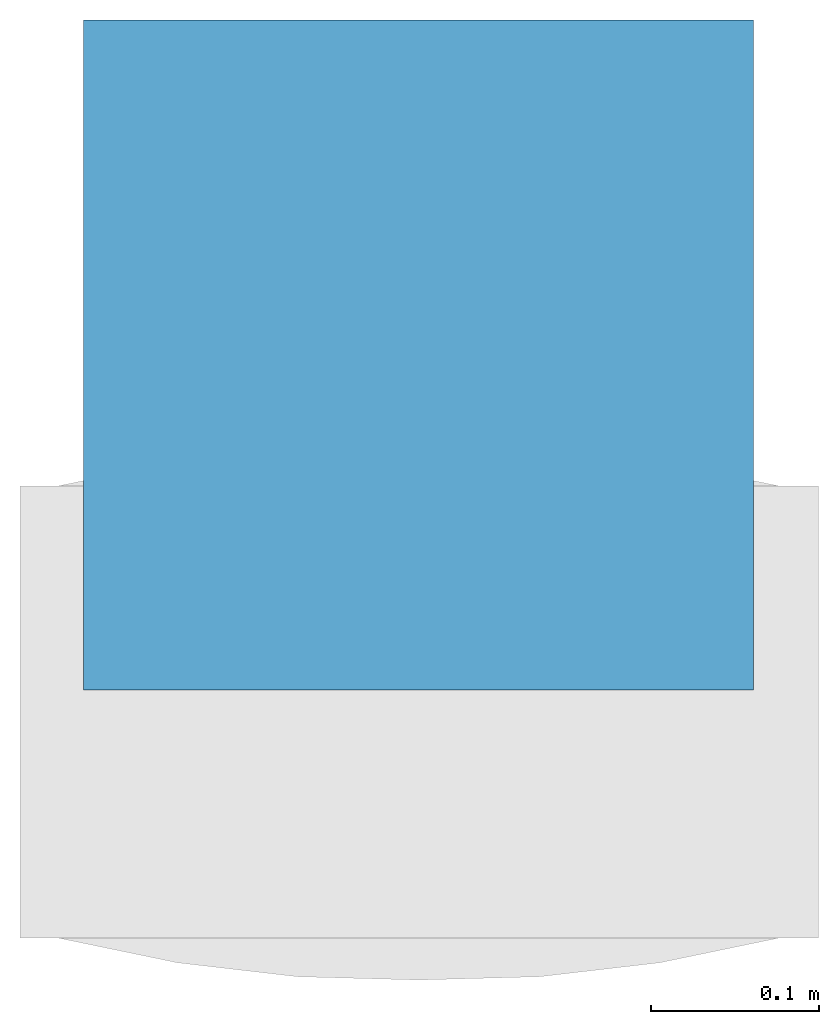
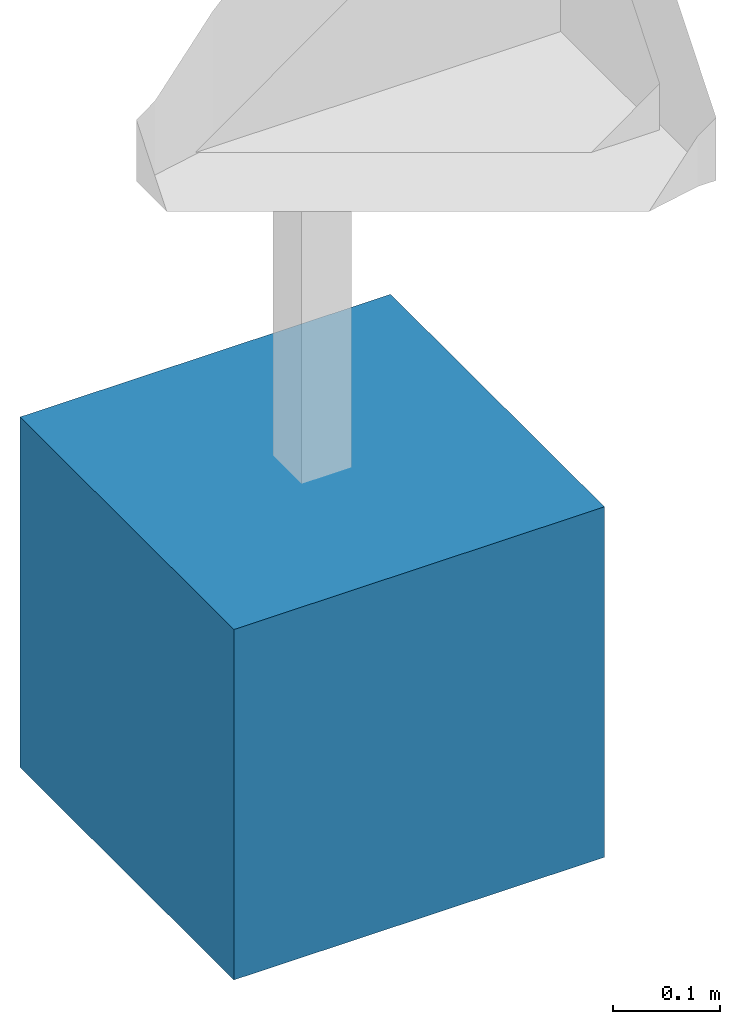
# One storey, part 1 of 2: 1 slab.
"""IFC4 building model written with IfcOpenShell, lengths in metres."""

from ifc_helpers import new_model, entity, si_unit, converted_unit, direction, frame, origin, origin_2d_with_axis, place, context, subcontext, project, spatial, rectangle, extrude, material, type_object, element, save


model = new_model("IFC4")

# Units and contexts
model_context = context("Model", 3, precision=1e-05, world=origin(), true_north=direction((6.123031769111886e-17, 1.0)))
body_context = subcontext(model_context, "Body", "Model", "MODEL_VIEW")
ifc_project = project(units=[si_unit("LENGTHUNIT", "METRE"), converted_unit("PLANEANGLEUNIT", "DEGREE", entity("IfcPlaneAngleMeasure", 0.017453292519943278), si_unit("PLANEANGLEUNIT", "RADIAN"), dimensions=[0, 0, 0, 0, 0, 0, 0]), si_unit("AREAUNIT", "SQUARE_METRE")], contexts=[model_context])

# Site, building, storey
site_placement = place(None, origin())
site = spatial("IfcSite", under=ifc_project, at=site_placement, Name="Default", CompositionType="ELEMENT")
building_placement = place(site_placement, origin())
building = spatial("IfcBuilding", under=site, at=building_placement, CompositionType="ELEMENT")
storey_placement = place(building_placement, origin())
storey = spatial("IfcBuildingStorey", under=building, at=storey_placement, Name="Ebene 0", CompositionType="ELEMENT", Elevation=0.0)

# Slab
ifc_material = material(Name="DB_Ortbeton", Category="DB_Beton")
slab_type = type_object("IfcSlabType", Name="DB_Abfallbehaelter_Fundamente:DB_Abfallbehaelter_Fundamente", PredefinedType="BASESLAB", material=ifc_material)
slab_placement = place(storey_placement, origin())
element("IfcSlab", 1, at=slab_placement, inside=storey, type_object=slab_type, Name="DB_Abfallbehaelter_Fundamente:DB_Abfallbehaelter_Fundamente", ObjectType="DB_Abfallbehaelter_Fundamente:DB_Abfallbehaelter_Fundamente", PredefinedType="BASESLAB", context=body_context, shape_type="SweptSolid", body=[
    extrude(rectangle(XDim=0.40000000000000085, YDim=0.3999999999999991, at=origin_2d_with_axis()), frame((0.0, 0.0, -0.6), z_axis=(0.0, 0.0, 1.0), x_axis=(-1.0, 0.0, 0.0)), (0.0, 0.0, 1.0), 0.4),
])

save(model, "model.ifc")
